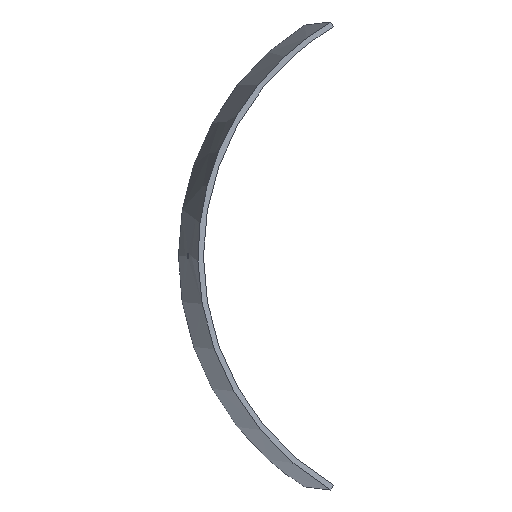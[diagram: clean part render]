
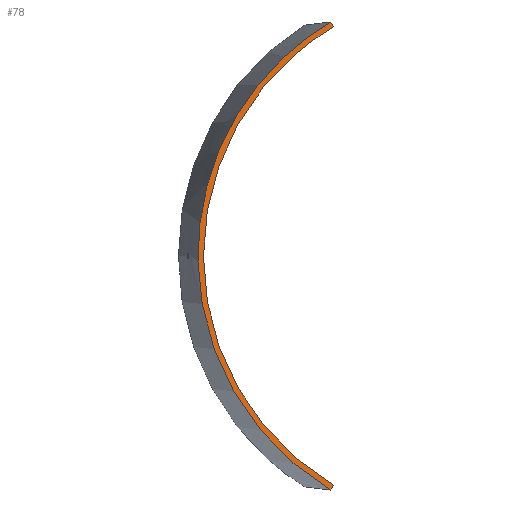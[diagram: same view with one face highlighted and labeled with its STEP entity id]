
A CAD part, left-side view. The second image highlights one B-rep face of the part: STEP entity #78.
In plain terms, the highlighted free-form (B-spline) face has degree [1, 3] with [2, 10] control points.
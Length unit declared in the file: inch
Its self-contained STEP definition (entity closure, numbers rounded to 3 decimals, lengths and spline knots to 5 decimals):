
#2 = EDGE_CURVE ( 'NONE', #476, #26, #42, .T. ) ;
#5 = CARTESIAN_POINT ( 'NONE',  ( 15.13252, -95.54295, 27.60585 ) ) ;
#7 = ORIENTED_EDGE ( 'NONE', *, *, #2, .F. ) ;
#8 = CARTESIAN_POINT ( 'NONE',  ( 15.9084, -100.48181, 31.38351 ) ) ;
#20 = CARTESIAN_POINT ( 'NONE',  ( 15.04196, -95.06057, 28.18798 ) ) ;
#26 = VERTEX_POINT ( 'NONE', #245 ) ;
#36 = B_SPLINE_CURVE_WITH_KNOTS ( 'NONE', 3,
 ( #374, #404, #323, #166, #450, #84, #47, #177, #425, #302 ),
 .UNSPECIFIED., .F., .F.,
 ( 4, 2, 2, 2, 4 ),
 ( 0., 0.25, 0.5, 0.75, 1. ),
 .UNSPECIFIED. ) ;
#42 = B_SPLINE_CURVE_WITH_KNOTS ( 'NONE', 1,
 ( #510, #71 ),
 .UNSPECIFIED., .F., .F.,
 ( 2, 2 ),
 ( 0., 1. ),
 .UNSPECIFIED. ) ;
#47 = CARTESIAN_POINT ( 'NONE',  ( 13.46426, -85.01001, 12.33397 ) ) ;
#51 = B_SPLINE_SURFACE_WITH_KNOTS ( 'NONE', 1, 3, ( 
 ( #95, #240, #215, #326, #455, #410, #286, #132, #121, #8 ),
 ( #52, #494, #331, #87, #58, #248, #125, #173, #5, #500 ) ),
 .UNSPECIFIED., .F., .F., .F.,
 ( 2, 2 ),
 ( 4, 2, 2, 2, 4 ),
 ( 0., 1. ),
 ( 0., 0.25, 0.5, 0.75, 1. ),
 .UNSPECIFIED. ) ;
#52 = CARTESIAN_POINT ( 'NONE',  ( 15.97362, -100.85346, -30.73534 ) ) ;
#53 = CARTESIAN_POINT ( 'NONE',  ( 15.9084, -100.48181, -31.38351 ) ) ;
#58 = CARTESIAN_POINT ( 'NONE',  ( 13.20894, -83.39793, -6.22114 ) ) ;
#66 = CARTESIAN_POINT ( 'NONE',  ( 15.9084, -100.48181, 31.38351 ) ) ;
#71 = CARTESIAN_POINT ( 'NONE',  ( 15.9084, -100.48181, -31.38351 ) ) ;
#78 = ADVANCED_FACE ( 'NONE', ( #241 ), #51, .T. ) ;
#84 = CARTESIAN_POINT ( 'NONE',  ( 13.20894, -83.39793, 6.22114 ) ) ;
#87 = CARTESIAN_POINT ( 'NONE',  ( 13.46426, -85.01001, -12.33397 ) ) ;
#95 = CARTESIAN_POINT ( 'NONE',  ( 15.9084, -100.48181, -31.38351 ) ) ;
#106 = CARTESIAN_POINT ( 'NONE',  ( 15.97362, -100.85346, -30.73534 ) ) ;
#109 = CARTESIAN_POINT ( 'NONE',  ( 13.06131, -82.66261, 6.35221 ) ) ;
#110 = ORIENTED_EDGE ( 'NONE', *, *, #371, .T. ) ;
#121 = CARTESIAN_POINT ( 'NONE',  ( 15.04196, -95.06055, 28.18797 ) ) ;
#125 = CARTESIAN_POINT ( 'NONE',  ( 13.46426, -85.01001, 12.33397 ) ) ;
#132 = CARTESIAN_POINT ( 'NONE',  ( 14.32312, -90.56161, 23.60761 ) ) ;
#166 = CARTESIAN_POINT ( 'NONE',  ( 13.46426, -85.01001, -12.33397 ) ) ;
#173 = CARTESIAN_POINT ( 'NONE',  ( 14.4345, -91.13585, 23.12022 ) ) ;
#177 = CARTESIAN_POINT ( 'NONE',  ( 14.4345, -91.13585, 23.12022 ) ) ;
#178 = CARTESIAN_POINT ( 'NONE',  ( 13.32412, -84.30822, -12.5939 ) ) ;
#189 = ORIENTED_EDGE ( 'NONE', *, *, #356, .F. ) ;
#191 = EDGE_CURVE ( 'NONE', #476, #206, #36, .T. ) ;
#206 = VERTEX_POINT ( 'NONE', #436 ) ;
#215 = CARTESIAN_POINT ( 'NONE',  ( 14.32312, -90.56161, -23.60761 ) ) ;
#227 = CARTESIAN_POINT ( 'NONE',  ( 13.06131, -82.66261, -6.35221 ) ) ;
#240 = CARTESIAN_POINT ( 'NONE',  ( 15.04196, -95.06055, -28.18797 ) ) ;
#241 = FACE_OUTER_BOUND ( 'NONE', #247, .T. ) ;
#245 = CARTESIAN_POINT ( 'NONE',  ( 15.9084, -100.48181, -31.38351 ) ) ;
#247 = EDGE_LOOP ( 'NONE', ( #7, #288, #110, #189 ) ) ;
#248 = CARTESIAN_POINT ( 'NONE',  ( 13.20894, -83.39793, 6.22114 ) ) ;
#249 = B_SPLINE_CURVE_WITH_KNOTS ( 'NONE', 3,
 ( #53, #255, #387, #178, #227, #109, #381, #307, #20, #66 ),
 .UNSPECIFIED., .F., .F.,
 ( 4, 2, 2, 2, 4 ),
 ( 0., 0.25, 0.5, 0.75, 1. ),
 .UNSPECIFIED. ) ;
#255 = CARTESIAN_POINT ( 'NONE',  ( 15.04196, -95.06057, -28.18798 ) ) ;
#258 = CARTESIAN_POINT ( 'NONE',  ( 15.9084, -100.48181, 31.38351 ) ) ;
#286 = CARTESIAN_POINT ( 'NONE',  ( 13.32412, -84.30822, 12.5939 ) ) ;
#288 = ORIENTED_EDGE ( 'NONE', *, *, #191, .T. ) ;
#302 = CARTESIAN_POINT ( 'NONE',  ( 15.97362, -100.85346, 30.73534 ) ) ;
#307 = CARTESIAN_POINT ( 'NONE',  ( 14.32312, -90.56161, 23.60761 ) ) ;
#323 = CARTESIAN_POINT ( 'NONE',  ( 14.4345, -91.13585, -23.12022 ) ) ;
#326 = CARTESIAN_POINT ( 'NONE',  ( 13.32412, -84.30822, -12.5939 ) ) ;
#331 = CARTESIAN_POINT ( 'NONE',  ( 14.4345, -91.13585, -23.12022 ) ) ;
#356 = EDGE_CURVE ( 'NONE', #26, #435, #249, .T. ) ;
#363 = B_SPLINE_CURVE_WITH_KNOTS ( 'NONE', 1,
 ( #479, #258 ),
 .UNSPECIFIED., .F., .F.,
 ( 2, 2 ),
 ( 0., 1. ),
 .UNSPECIFIED. ) ;
#371 = EDGE_CURVE ( 'NONE', #206, #435, #363, .T. ) ;
#374 = CARTESIAN_POINT ( 'NONE',  ( 15.97362, -100.85346, -30.73534 ) ) ;
#375 = CARTESIAN_POINT ( 'NONE',  ( 15.9084, -100.48181, 31.38351 ) ) ;
#381 = CARTESIAN_POINT ( 'NONE',  ( 13.32412, -84.30822, 12.5939 ) ) ;
#387 = CARTESIAN_POINT ( 'NONE',  ( 14.32312, -90.56161, -23.60761 ) ) ;
#404 = CARTESIAN_POINT ( 'NONE',  ( 15.13252, -95.54295, -27.60585 ) ) ;
#410 = CARTESIAN_POINT ( 'NONE',  ( 13.06131, -82.66261, 6.35221 ) ) ;
#425 = CARTESIAN_POINT ( 'NONE',  ( 15.13252, -95.54295, 27.60585 ) ) ;
#435 = VERTEX_POINT ( 'NONE', #375 ) ;
#436 = CARTESIAN_POINT ( 'NONE',  ( 15.97362, -100.85346, 30.73534 ) ) ;
#450 = CARTESIAN_POINT ( 'NONE',  ( 13.20894, -83.39793, -6.22114 ) ) ;
#455 = CARTESIAN_POINT ( 'NONE',  ( 13.06131, -82.66261, -6.35221 ) ) ;
#476 = VERTEX_POINT ( 'NONE', #106 ) ;
#479 = CARTESIAN_POINT ( 'NONE',  ( 15.97362, -100.85346, 30.73534 ) ) ;
#494 = CARTESIAN_POINT ( 'NONE',  ( 15.13252, -95.54295, -27.60585 ) ) ;
#500 = CARTESIAN_POINT ( 'NONE',  ( 15.97362, -100.85346, 30.73534 ) ) ;
#510 = CARTESIAN_POINT ( 'NONE',  ( 15.97362, -100.85346, -30.73534 ) ) ;
